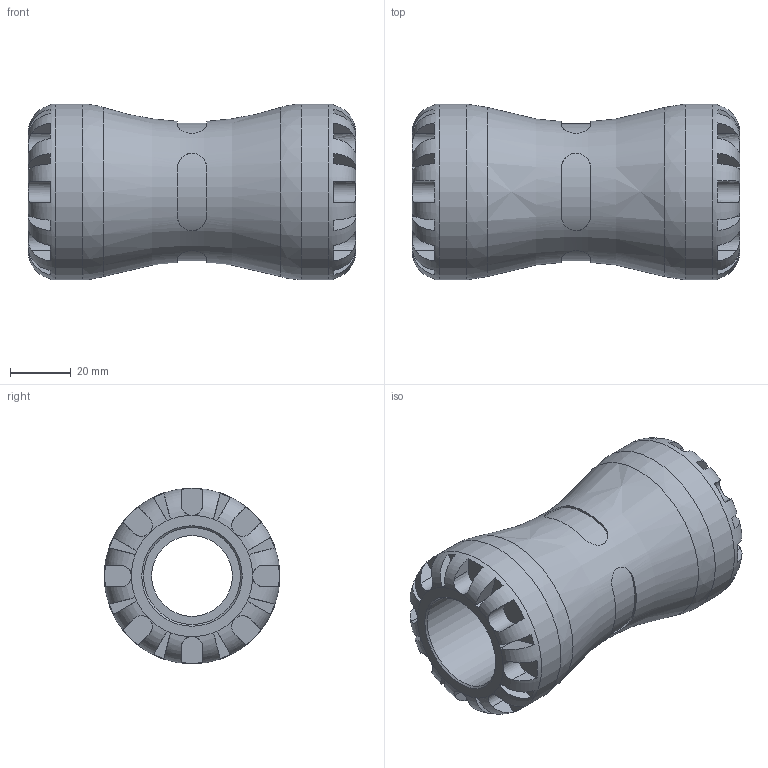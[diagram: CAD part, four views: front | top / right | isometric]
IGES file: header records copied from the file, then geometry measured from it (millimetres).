
Global section: file name: 100100032_190100032.ipt; native system: Autodesk Inventor 2015; preprocessor: unknown; author: KIM; date: 20170117.105922; units: millimetre
Bounding box: 108 x 58 x 58 mm (x, y, z)
Volume: 143494.1 mm3; surface area: 34918.7 mm2
Topology: 1 solids, 1 shells, 164 faces, 427 edges, 270 vertices
Faces by surface type: plane 108, revolution 34, cylinder 22
Full cylindrical faces by diameter (mm): 58 x2
